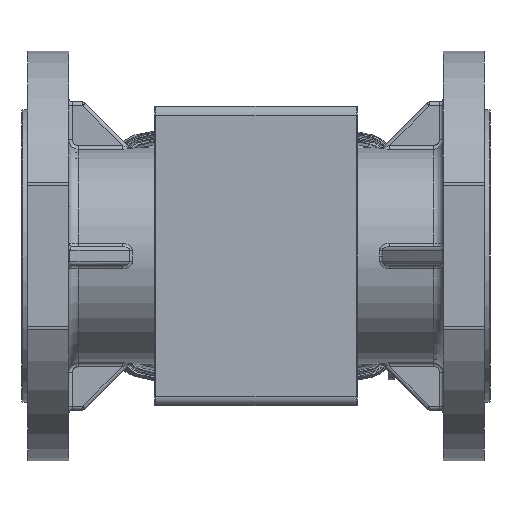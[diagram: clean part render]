
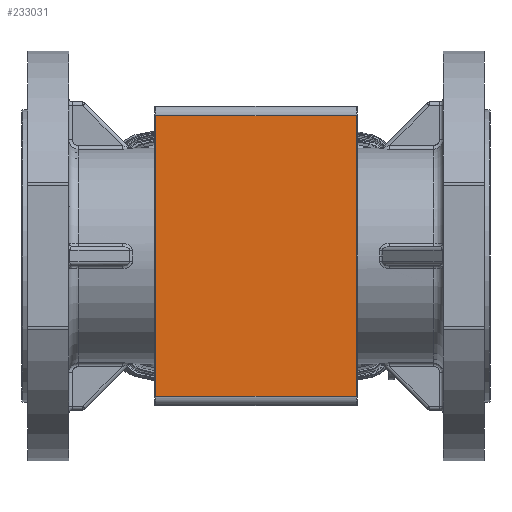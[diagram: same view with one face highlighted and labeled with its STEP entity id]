
A CAD part, front view. The second image highlights one B-rep face of the part: STEP entity #233031.
In plain terms, the highlighted planar face has unit normal (0, -1, 0).
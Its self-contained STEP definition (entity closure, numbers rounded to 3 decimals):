
#7235 = AXIS2_PLACEMENT_3D ( 'NONE', #129888, #108168, #174395 ) ;
#22957 = PLANE ( 'NONE',  #7235 ) ;
#31283 = VERTEX_POINT ( 'NONE', #116514 ) ;
#37701 = FACE_OUTER_BOUND ( 'NONE', #208414, .T. ) ;
#44082 = CARTESIAN_POINT ( 'NONE',  ( -53.5, -67.5, 75. ) ) ;
#47350 = ORIENTED_EDGE ( 'NONE', *, *, #173434, .T. ) ;
#47618 = LINE ( 'NONE', #245067, #98470 ) ;
#50484 = LINE ( 'NONE', #240146, #158955 ) ;
#84139 = DIRECTION ( 'NONE',  ( 1., 0., 0. ) ) ;
#88071 = LINE ( 'NONE', #213937, #138867 ) ;
#88828 = ORIENTED_EDGE ( 'NONE', *, *, #168229, .T. ) ;
#98470 = VECTOR ( 'NONE', #115299, 1000. ) ;
#104083 = LINE ( 'NONE', #146423, #212482 ) ;
#108168 = DIRECTION ( 'NONE',  ( 0., -1., 0. ) ) ;
#111777 = VERTEX_POINT ( 'NONE', #177041 ) ;
#115299 = DIRECTION ( 'NONE',  ( 0., 0., 1. ) ) ;
#116514 = CARTESIAN_POINT ( 'NONE',  ( -53.5, -67.5, -75. ) ) ;
#129888 = CARTESIAN_POINT ( 'NONE',  ( 54., -67.5, 80. ) ) ;
#132146 = DIRECTION ( 'NONE',  ( -1., 0., 0. ) ) ;
#138867 = VECTOR ( 'NONE', #84139, 1000. ) ;
#146423 = CARTESIAN_POINT ( 'NONE',  ( -53.5, -67.5, 80. ) ) ;
#148301 = DIRECTION ( 'NONE',  ( 0., 0., -1. ) ) ;
#158955 = VECTOR ( 'NONE', #132146, 1000. ) ;
#159296 = EDGE_CURVE ( 'NONE', #165277, #31283, #104083, .T. ) ;
#165277 = VERTEX_POINT ( 'NONE', #44082 ) ;
#168229 = EDGE_CURVE ( 'NONE', #111777, #231994, #47618, .T. ) ;
#173434 = EDGE_CURVE ( 'NONE', #31283, #111777, #88071, .T. ) ;
#174395 = DIRECTION ( 'NONE',  ( 0., 0., -1. ) ) ;
#177041 = CARTESIAN_POINT ( 'NONE',  ( 53.5, -67.5, -75. ) ) ;
#191218 = ORIENTED_EDGE ( 'NONE', *, *, #236507, .T. ) ;
#208414 = EDGE_LOOP ( 'NONE', ( #88828, #191218, #274652, #47350 ) ) ;
#212482 = VECTOR ( 'NONE', #148301, 1000. ) ;
#213937 = CARTESIAN_POINT ( 'NONE',  ( 53.5, -67.5, -75. ) ) ;
#220474 = CARTESIAN_POINT ( 'NONE',  ( 53.5, -67.5, 75. ) ) ;
#231994 = VERTEX_POINT ( 'NONE', #220474 ) ;
#233031 = ADVANCED_FACE ( 'NONE', ( #37701 ), #22957, .T. ) ;
#236507 = EDGE_CURVE ( 'NONE', #231994, #165277, #50484, .T. ) ;
#240146 = CARTESIAN_POINT ( 'NONE',  ( -53.5, -67.5, 75. ) ) ;
#245067 = CARTESIAN_POINT ( 'NONE',  ( 53.5, -67.5, 80. ) ) ;
#274652 = ORIENTED_EDGE ( 'NONE', *, *, #159296, .T. ) ;
